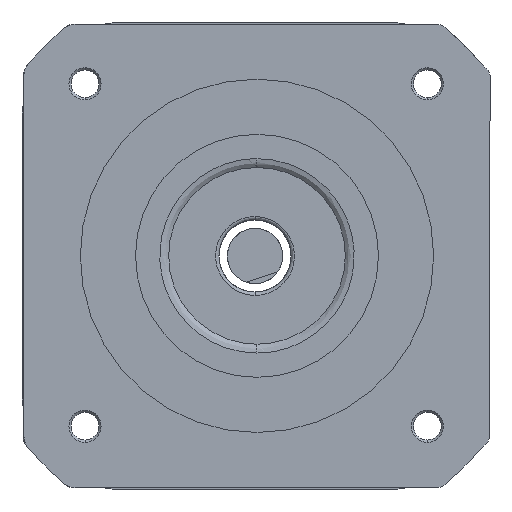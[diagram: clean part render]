
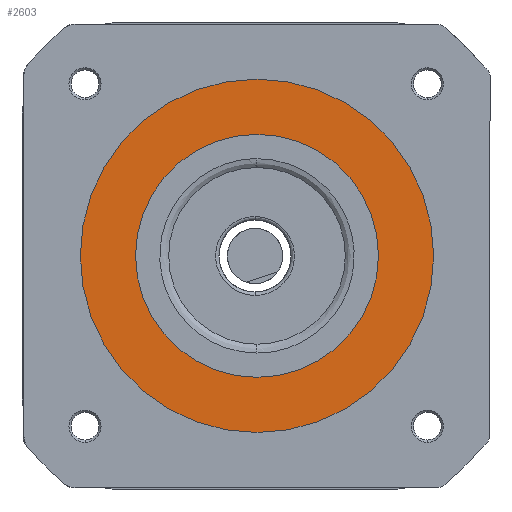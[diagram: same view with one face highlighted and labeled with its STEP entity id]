
A CAD part, front view. The second image highlights one B-rep face of the part: STEP entity #2603.
In plain terms, the highlighted planar face has unit normal (0, -1, 0).
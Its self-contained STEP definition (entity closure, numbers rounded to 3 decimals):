
#550 = EDGE_LOOP ( 'NONE', ( #6632, #19012 ) ) ;
#1523 = DIRECTION ( 'NONE',  ( 0., 1., 0. ) ) ;
#1689 = CARTESIAN_POINT ( 'NONE',  ( 0., 0.2, 0. ) ) ;
#1730 = CARTESIAN_POINT ( 'NONE',  ( 0., 0.2, 0. ) ) ;
#2603 = ADVANCED_FACE ( 'NONE', ( #14084, #3450 ), #22840, .T. ) ;
#2620 = DIRECTION ( 'NONE',  ( 0., 0., -1. ) ) ;
#2954 = VERTEX_POINT ( 'NONE', #22123 ) ;
#3129 = DIRECTION ( 'NONE',  ( 0., 0., -1. ) ) ;
#3450 = FACE_BOUND ( 'NONE', #550, .T. ) ;
#3701 = CARTESIAN_POINT ( 'NONE',  ( 0., 0.2, 16. ) ) ;
#4780 = AXIS2_PLACEMENT_3D ( 'NONE', #18741, #20447, #2620 ) ;
#4898 = ORIENTED_EDGE ( 'NONE', *, *, #15245, .T. ) ;
#5693 = VERTEX_POINT ( 'NONE', #11991 ) ;
#6632 = ORIENTED_EDGE ( 'NONE', *, *, #12572, .T. ) ;
#6755 = AXIS2_PLACEMENT_3D ( 'NONE', #1730, #9273, #10976 ) ;
#7684 = DIRECTION ( 'NONE',  ( 0., -1., 0. ) ) ;
#8012 = CIRCLE ( 'NONE', #10415, 11. ) ;
#8968 = CIRCLE ( 'NONE', #20391, 16. ) ;
#9273 = DIRECTION ( 'NONE',  ( 0., -1., 0. ) ) ;
#10415 = AXIS2_PLACEMENT_3D ( 'NONE', #1689, #1523, #17749 ) ;
#10976 = DIRECTION ( 'NONE',  ( 0., 0., -1. ) ) ;
#11516 = ORIENTED_EDGE ( 'NONE', *, *, #12774, .T. ) ;
#11861 = EDGE_CURVE ( 'NONE', #5693, #18416, #8012, .T. ) ;
#11991 = CARTESIAN_POINT ( 'NONE',  ( 0., 0.2, 11. ) ) ;
#12572 = EDGE_CURVE ( 'NONE', #18416, #5693, #16356, .T. ) ;
#12774 = EDGE_CURVE ( 'NONE', #2954, #21718, #15499, .T. ) ;
#13840 = DIRECTION ( 'NONE',  ( 0., -1., 0. ) ) ;
#14084 = FACE_OUTER_BOUND ( 'NONE', #21082, .T. ) ;
#15245 = EDGE_CURVE ( 'NONE', #21718, #2954, #8968, .T. ) ;
#15499 = CIRCLE ( 'NONE', #6755, 16. ) ;
#16356 = CIRCLE ( 'NONE', #4780, 11. ) ;
#17520 = CARTESIAN_POINT ( 'NONE',  ( 0., 0.2, -11. ) ) ;
#17749 = DIRECTION ( 'NONE',  ( 0., 0., -1. ) ) ;
#18383 = CARTESIAN_POINT ( 'NONE',  ( 0., 0.2, 0. ) ) ;
#18416 = VERTEX_POINT ( 'NONE', #17520 ) ;
#18741 = CARTESIAN_POINT ( 'NONE',  ( 0., 0.2, 0. ) ) ;
#19012 = ORIENTED_EDGE ( 'NONE', *, *, #11861, .T. ) ;
#19100 = CARTESIAN_POINT ( 'NONE',  ( 0., 0.2, 0. ) ) ;
#20259 = DIRECTION ( 'NONE',  ( 0., 0., -1. ) ) ;
#20391 = AXIS2_PLACEMENT_3D ( 'NONE', #18383, #7684, #20259 ) ;
#20447 = DIRECTION ( 'NONE',  ( 0., 1., 0. ) ) ;
#21082 = EDGE_LOOP ( 'NONE', ( #11516, #4898 ) ) ;
#21718 = VERTEX_POINT ( 'NONE', #3701 ) ;
#22123 = CARTESIAN_POINT ( 'NONE',  ( 0., 0.2, -16. ) ) ;
#22808 = AXIS2_PLACEMENT_3D ( 'NONE', #19100, #13840, #3129 ) ;
#22840 = PLANE ( 'NONE',  #22808 ) ;
